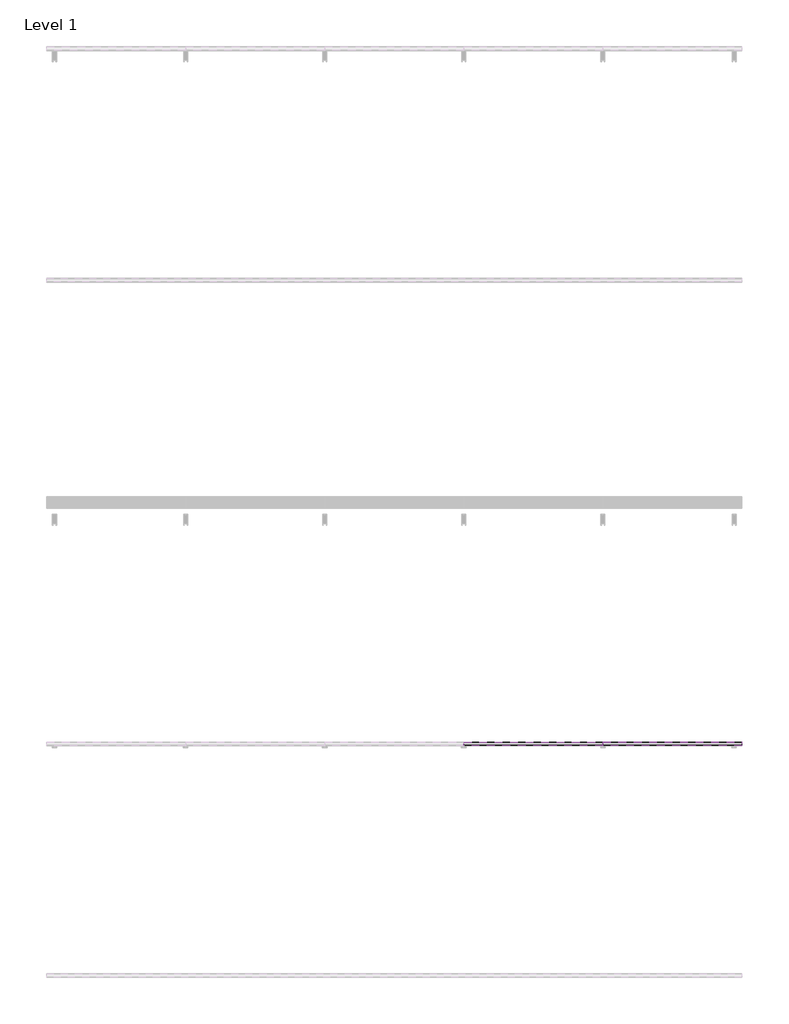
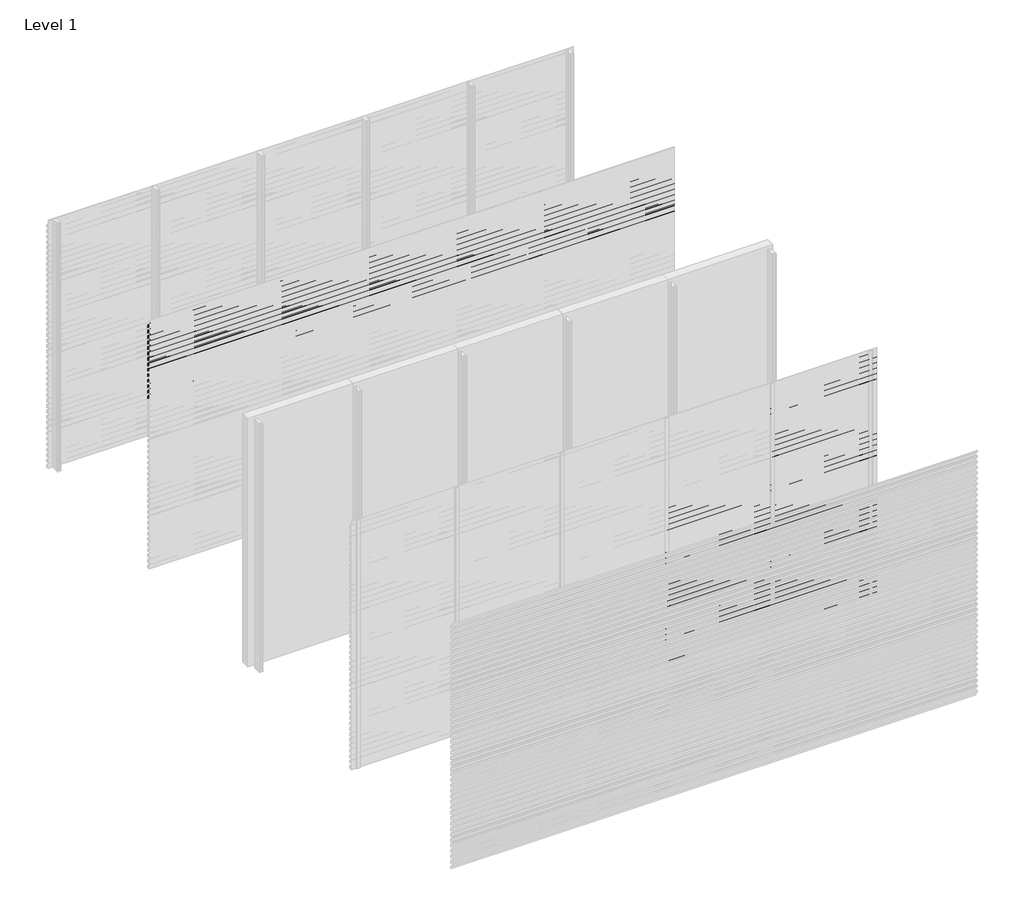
# One storey, part 21 of 33: 88 proxies.
"""IFC4 building model written with IfcOpenShell, lengths in millimetres."""

import ifcopenshell
import ifcopenshell.guid

model = None  # the IFC model being written
_history = None  # IfcOwnerHistory: only IFC2X3 demands one
_inside = {}  # id of a spatial element -> (the spatial element, [elements in it])
_under = {}  # id of a project, library or spatial element -> (it, [spatial elements below it])
_declared = {}  # id of a project -> (the project, [libraries it declares])
_typed = {}  # id of a type object -> (the type object, [elements of that type])
_made_of = {}  # id of a material, layer set ... -> (it, [elements and type objects made of it])


def new_model(schema):
    """Start an empty IFC model of exactly this schema.

    Asked for "IFC4X3", IfcOpenShell would pick the latest addendum, in which some entities
    have other attributes; the version numbers below select the first issue.
    IFC2X3 requires an IfcOwnerHistory on every rooted entity: one is made here for all.
    """
    global model, _history
    if schema == "IFC4X3":
        model = ifcopenshell.file(schema_version=(4, 3, 0, 0))
    else:
        model = ifcopenshell.file(schema=schema)
    _inside.clear()
    _under.clear()
    _declared.clear()
    _typed.clear()
    _made_of.clear()
    _history = None
    if model.schema == "IFC2X3":
        org = make("IfcOrganization", Name="unknown")
        user = make(
            "IfcPersonAndOrganization",
            ThePerson=make("IfcPerson", FamilyName="unknown"),
            TheOrganization=org,
        )
        app = make(
            "IfcApplication",
            ApplicationDeveloper=org,
            Version="unknown",
            ApplicationFullName="unknown",
            ApplicationIdentifier="unknown",
        )
        _history = make(
            "IfcOwnerHistory",
            OwningUser=user,
            OwningApplication=app,
            ChangeAction="ADDED",
            CreationDate=0,
        )
    return model


def make(cls, **values):
    """One entity of the class cls with the attributes given. An attribute that is None is left unset."""
    return model.create_entity(
        cls, **{name: value for name, value in values.items() if value is not None}
    )


def rooted(cls, **values):
    """An entity with a GlobalId (a new one), such as an element, a storey or a relation."""
    return make(cls, GlobalId=ifcopenshell.guid.new(), OwnerHistory=_history, **values)


def si_unit(unit_type, name, prefix=None):
    """IfcSIUnit, for example si_unit("LENGTHUNIT", "METRE", prefix="MILLI")."""
    return make("IfcSIUnit", UnitType=unit_type, Prefix=prefix, Name=name)


def assignment(units):
    """IfcUnitAssignment: the units of a project."""
    return None if units is None else make("IfcUnitAssignment", Units=units)


def point(xyz):
    """IfcCartesianPoint."""
    return None if xyz is None else make("IfcCartesianPoint", Coordinates=xyz)


def direction(xyz):
    """IfcDirection."""
    return None if xyz is None else make("IfcDirection", DirectionRatios=xyz)


def frame(location, z_axis=None, x_axis=None):
    """IfcAxis2Placement3D, a coordinate frame: its origin and axes. An axis left out is left unset."""
    return make(
        "IfcAxis2Placement3D",
        Location=point(location),
        Axis=direction(z_axis),
        RefDirection=direction(x_axis),
    )


def origin():
    """The frame at (0, 0, 0) with its axes left unset."""
    return frame((0.0, 0.0, 0.0))


def place(relative_to, where):
    """IfcLocalPlacement: puts the frame where relative to a parent placement (None: the world)."""
    return make(
        "IfcLocalPlacement", PlacementRelTo=relative_to, RelativePlacement=where
    )


def context(
    kind, dimensions, precision=None, world=None, true_north=None, identifier=None
):
    """IfcGeometricRepresentationContext, for example the 3D "Model" context."""
    return make(
        "IfcGeometricRepresentationContext",
        ContextIdentifier=identifier,
        ContextType=kind,
        CoordinateSpaceDimension=dimensions,
        Precision=precision,
        WorldCoordinateSystem=world,
        TrueNorth=true_north,
    )


def project(units=None, contexts=None):
    """IfcProject with its units and contexts."""
    return rooted(
        "IfcProject",
        Name="project",
        RepresentationContexts=contexts,
        UnitsInContext=assignment(units),
    )


def spatial(cls, under=None, at=None, **own):
    """A site, building, storey or space (cls), placed at a placement, below another one or the project."""
    s = rooted(cls, ObjectPlacement=at, **own)
    if under is not None:
        _under.setdefault(under.id(), (under, []))[1].append(s)
    return s


def polyline(points):
    """IfcPolyline through the points."""
    return make("IfcPolyline", Points=[point(p) for p in points])


def outline(outer, holes=None, kind="AREA"):
    """IfcArbitraryClosedProfileDef: a profile drawn as a closed curve; with holes, ...WithVoids."""
    if holes is None:
        return make("IfcArbitraryClosedProfileDef", ProfileType=kind, OuterCurve=outer)
    return make(
        "IfcArbitraryProfileDefWithVoids",
        ProfileType=kind,
        OuterCurve=outer,
        InnerCurves=holes,
    )


def extrude(swept, where, along, depth):
    """IfcExtrudedAreaSolid: the profile swept, set in the frame where, extruded along a direction by depth."""
    return make(
        "IfcExtrudedAreaSolid",
        SweptArea=swept,
        Position=where,
        ExtrudedDirection=direction(along),
        Depth=depth,
    )


def shape(context_of_items, identifier, shape_type, items):
    """IfcShapeRepresentation: the items that make up one representation, for example the "Body"."""
    return make(
        "IfcShapeRepresentation",
        ContextOfItems=context_of_items,
        RepresentationIdentifier=identifier,
        RepresentationType=shape_type,
        Items=items,
    )


def made_of(thing, what):
    """Note that an element or type object is made of a material, layer set ...; save() writes the relation."""
    if what is not None:
        _made_of.setdefault(what.id(), (what, []))[1].append(thing)
    return thing


def element(
    cls,
    number,
    at=None,
    inside=None,
    cuts=None,
    type_object=None,
    material=None,
    context=None,
    identifier="Body",
    shape_type=None,
    held_by="IfcProductDefinitionShape",
    body=None,
    shapes=None,
    **own,
):
    """One element of the class cls, such as IfcWall. Its Tag is "e" and its number.

    at: its placement. inside: the storey or other place that contains it. cuts: it is an
    opening in that element (IfcRelVoidsElement). A single representation is given by context,
    identifier, shape_type and body (its items); several are given by shapes. held_by: the class
    of the entity that holds the representations. save() writes the other relations.
    """
    e = rooted(cls, Tag="e%d" % number, ObjectPlacement=at, **own)
    if body is not None:
        shapes = [shape(context, identifier, shape_type, body)]
    if shapes is not None:
        e.Representation = make(held_by, Representations=shapes)
    if inside is not None:
        _inside.setdefault(inside.id(), (inside, []))[1].append(e)
    if cuts is not None:
        rooted(
            "IfcRelVoidsElement", RelatingBuildingElement=cuts, RelatedOpeningElement=e
        )
    if type_object is not None:
        _typed.setdefault(type_object.id(), (type_object, []))[1].append(e)
    return made_of(e, material)


def aggregate(whole, parts):
    """IfcRelAggregates: a whole, such as a stair, and the parts it consists of."""
    return rooted("IfcRelAggregates", RelatingObject=whole, RelatedObjects=parts)


def save(model, path):
    """Write the relations noted so far, then the file.

    IfcRelAggregates (storeys below a building ...), IfcRelContainedInSpatialStructure (elements
    in a storey), IfcRelDefinesByType, IfcRelAssociatesMaterial and IfcRelDeclares: one each for
    every whole, place, type object, material and project.
    """
    for whole, parts in _under.values():
        aggregate(whole, parts)
    for where, things in _inside.values():
        rooted(
            "IfcRelContainedInSpatialStructure",
            RelatedElements=things,
            RelatingStructure=where,
        )
    for kind, things in _typed.values():
        rooted("IfcRelDefinesByType", RelatedObjects=things, RelatingType=kind)
    for what, things in _made_of.values():
        rooted("IfcRelAssociatesMaterial", RelatedObjects=things, RelatingMaterial=what)
    for by, libraries in _declared.values():
        rooted("IfcRelDeclares", RelatingContext=by, RelatedDefinitions=libraries)
    model.write(path)


model = new_model("IFC4")

# Units and contexts
model_context = context("Model", 3, world=origin())
ifc_project = project(units=[si_unit("LENGTHUNIT", "METRE", prefix="MILLI")], contexts=[model_context])

# Site, building, storey
site = spatial("IfcSite", under=ifc_project)
building = spatial("IfcBuilding", under=site)
storey = spatial("IfcBuildingStorey", under=building, Name="Level 1", Elevation=0.0)

# Proxies
placement = place(None, origin())
element("IfcBuildingElementProxy", 1, Name="Wall Sweeps", at=placement, inside=storey, context=model_context, shape_type="SweptSolid", body=[
    extrude(outline(polyline([(-19967.0, 2930.0), (-19967.0, 2897.0), (-19968.25, 2897.7216933), (-19968.25, 2929.2872415), (-19998.0, 2950.0588647), (-19998.0, 2970.0), (-19996.75, 2970.0), (-19996.75, 2950.7716232), (-19967.0, 2930.0)])), frame((0.0, 0.0, 0.0), z_axis=(1.0, 0.0, 0.0), x_axis=(0.0, 1.0, 0.0)), (0.0, 0.0, 1.0), 6000.0),
])
element("IfcBuildingElementProxy", 2, Name="Wall Sweeps", at=placement, inside=storey, context=model_context, shape_type="SweptSolid", body=[
    extrude(outline(polyline([(-19967.0, 2864.0), (-19967.0, 2831.0), (-19968.25, 2831.7216933), (-19968.25, 2863.2872415), (-19998.0, 2884.0588647), (-19998.0, 2904.0), (-19996.75, 2904.0), (-19996.75, 2884.7716232), (-19967.0, 2864.0)])), frame((0.0, 0.0, 0.0), z_axis=(1.0, 0.0, 0.0), x_axis=(0.0, 1.0, 0.0)), (0.0, 0.0, 1.0), 6000.0),
])
element("IfcBuildingElementProxy", 3, Name="Wall Sweeps", at=placement, inside=storey, context=model_context, shape_type="SweptSolid", body=[
    extrude(outline(polyline([(-19967.0, 2798.0), (-19967.0, 2765.0), (-19968.25, 2765.7216933), (-19968.25, 2797.2872415), (-19998.0, 2818.0588647), (-19998.0, 2838.0), (-19996.75, 2838.0), (-19996.75, 2818.7716232), (-19967.0, 2798.0)])), frame((0.0, 0.0, 0.0), z_axis=(1.0, 0.0, 0.0), x_axis=(0.0, 1.0, 0.0)), (0.0, 0.0, 1.0), 6000.0),
])
element("IfcBuildingElementProxy", 4, Name="Wall Sweeps", at=placement, inside=storey, context=model_context, shape_type="SweptSolid", body=[
    extrude(outline(polyline([(-19967.0, 2732.0), (-19967.0, 2699.0), (-19968.25, 2699.7216933), (-19968.25, 2731.2872415), (-19998.0, 2752.0588647), (-19998.0, 2772.0), (-19996.75, 2772.0), (-19996.75, 2752.7716232), (-19967.0, 2732.0)])), frame((0.0, 0.0, 0.0), z_axis=(1.0, 0.0, 0.0), x_axis=(0.0, 1.0, 0.0)), (0.0, 0.0, 1.0), 6000.0),
])
element("IfcBuildingElementProxy", 5, Name="Wall Sweeps", at=placement, inside=storey, context=model_context, shape_type="SweptSolid", body=[
    extrude(outline(polyline([(-19967.0, 2666.0), (-19967.0, 2633.0), (-19968.25, 2633.7216933), (-19968.25, 2665.2872415), (-19998.0, 2686.0588647), (-19998.0, 2706.0), (-19996.75, 2706.0), (-19996.75, 2686.7716232), (-19967.0, 2666.0)])), frame((0.0, 0.0, 0.0), z_axis=(1.0, 0.0, 0.0), x_axis=(0.0, 1.0, 0.0)), (0.0, 0.0, 1.0), 6000.0),
])
element("IfcBuildingElementProxy", 6, Name="Wall Sweeps", at=placement, inside=storey, context=model_context, shape_type="SweptSolid", body=[
    extrude(outline(polyline([(-19967.0, 2600.0), (-19967.0, 2567.0), (-19968.25, 2567.7216933), (-19968.25, 2599.2872415), (-19998.0, 2620.0588647), (-19998.0, 2640.0), (-19996.75, 2640.0), (-19996.75, 2620.7716232), (-19967.0, 2600.0)])), frame((0.0, 0.0, 0.0), z_axis=(1.0, 0.0, 0.0), x_axis=(0.0, 1.0, 0.0)), (0.0, 0.0, 1.0), 6000.0),
])
element("IfcBuildingElementProxy", 7, Name="Wall Sweeps", at=placement, inside=storey, context=model_context, shape_type="SweptSolid", body=[
    extrude(outline(polyline([(-19967.0, 2534.0), (-19967.0, 2501.0), (-19968.25, 2501.7216933), (-19968.25, 2533.2872415), (-19998.0, 2554.0588647), (-19998.0, 2574.0), (-19996.75, 2574.0), (-19996.75, 2554.7716232), (-19967.0, 2534.0)])), frame((0.0, 0.0, 0.0), z_axis=(1.0, 0.0, 0.0), x_axis=(0.0, 1.0, 0.0)), (0.0, 0.0, 1.0), 6000.0),
])
element("IfcBuildingElementProxy", 8, Name="Wall Sweeps", at=placement, inside=storey, context=model_context, shape_type="SweptSolid", body=[
    extrude(outline(polyline([(-19967.0, 2468.0), (-19967.0, 2435.0), (-19968.25, 2435.7216933), (-19968.25, 2467.2872415), (-19998.0, 2488.0588647), (-19998.0, 2508.0), (-19996.75, 2508.0), (-19996.75, 2488.7716232), (-19967.0, 2468.0)])), frame((0.0, 0.0, 0.0), z_axis=(1.0, 0.0, 0.0), x_axis=(0.0, 1.0, 0.0)), (0.0, 0.0, 1.0), 6000.0),
])
element("IfcBuildingElementProxy", 9, Name="Wall Sweeps", at=placement, inside=storey, context=model_context, shape_type="SweptSolid", body=[
    extrude(outline(polyline([(-19967.0, 2402.0), (-19967.0, 2369.0), (-19968.25, 2369.7216933), (-19968.25, 2401.2872415), (-19998.0, 2422.0588647), (-19998.0, 2442.0), (-19996.75, 2442.0), (-19996.75, 2422.7716232), (-19967.0, 2402.0)])), frame((0.0, 0.0, 0.0), z_axis=(1.0, 0.0, 0.0), x_axis=(0.0, 1.0, 0.0)), (0.0, 0.0, 1.0), 6000.0),
])
element("IfcBuildingElementProxy", 10, Name="Wall Sweeps", at=placement, inside=storey, context=model_context, shape_type="SweptSolid", body=[
    extrude(outline(polyline([(-19967.0, 2336.0), (-19967.0, 2303.0), (-19968.25, 2303.7216933), (-19968.25, 2335.2872415), (-19998.0, 2356.0588647), (-19998.0, 2376.0), (-19996.75, 2376.0), (-19996.75, 2356.7716232), (-19967.0, 2336.0)])), frame((0.0, 0.0, 0.0), z_axis=(1.0, 0.0, 0.0), x_axis=(0.0, 1.0, 0.0)), (0.0, 0.0, 1.0), 6000.0),
])
element("IfcBuildingElementProxy", 11, Name="Wall Sweeps", at=placement, inside=storey, context=model_context, shape_type="SweptSolid", body=[
    extrude(outline(polyline([(-19967.0, 2270.0), (-19967.0, 2237.0), (-19968.25, 2237.7216933), (-19968.25, 2269.2872415), (-19998.0, 2290.0588647), (-19998.0, 2310.0), (-19996.75, 2310.0), (-19996.75, 2290.7716232), (-19967.0, 2270.0)])), frame((0.0, 0.0, 0.0), z_axis=(1.0, 0.0, 0.0), x_axis=(0.0, 1.0, 0.0)), (0.0, 0.0, 1.0), 6000.0),
])
element("IfcBuildingElementProxy", 12, Name="Wall Sweeps", at=placement, inside=storey, context=model_context, shape_type="SweptSolid", body=[
    extrude(outline(polyline([(-19967.0, 2204.0), (-19967.0, 2171.0), (-19968.25, 2171.7216933), (-19968.25, 2203.2872415), (-19998.0, 2224.0588647), (-19998.0, 2244.0), (-19996.75, 2244.0), (-19996.75, 2224.7716232), (-19967.0, 2204.0)])), frame((0.0, 0.0, 0.0), z_axis=(1.0, 0.0, 0.0), x_axis=(0.0, 1.0, 0.0)), (0.0, 0.0, 1.0), 6000.0),
])
element("IfcBuildingElementProxy", 13, Name="Wall Sweeps", at=placement, inside=storey, context=model_context, shape_type="SweptSolid", body=[
    extrude(outline(polyline([(-19967.0, 2138.0), (-19967.0, 2105.0), (-19968.25, 2105.7216933), (-19968.25, 2137.2872415), (-19998.0, 2158.0588647), (-19998.0, 2178.0), (-19996.75, 2178.0), (-19996.75, 2158.7716232), (-19967.0, 2138.0)])), frame((0.0, 0.0, 0.0), z_axis=(1.0, 0.0, 0.0), x_axis=(0.0, 1.0, 0.0)), (0.0, 0.0, 1.0), 6000.0),
])
element("IfcBuildingElementProxy", 14, Name="Wall Sweeps", at=placement, inside=storey, context=model_context, shape_type="SweptSolid", body=[
    extrude(outline(polyline([(-19967.0, 2072.0), (-19967.0, 2039.0), (-19968.25, 2039.7216933), (-19968.25, 2071.2872415), (-19998.0, 2092.0588647), (-19998.0, 2112.0), (-19996.75, 2112.0), (-19996.75, 2092.7716232), (-19967.0, 2072.0)])), frame((0.0, 0.0, 0.0), z_axis=(1.0, 0.0, 0.0), x_axis=(0.0, 1.0, 0.0)), (0.0, 0.0, 1.0), 6000.0),
])
element("IfcBuildingElementProxy", 15, Name="Wall Sweeps", at=placement, inside=storey, context=model_context, shape_type="SweptSolid", body=[
    extrude(outline(polyline([(-23967.0, 1874.0), (-23967.0, 1841.0), (-23968.25, 1841.7216933), (-23968.25, 1873.2872415), (-23998.0, 1894.0588647), (-23998.0, 1914.0), (-23996.75, 1914.0), (-23996.75, 1894.7716232), (-23967.0, 1874.0)])), frame((3600.0, 0.0, 0.0), z_axis=(1.0, 0.0, 0.0), x_axis=(0.0, 1.0, 0.0)), (0.0, 0.0, 1.0), 1200.0),
])
element("IfcBuildingElementProxy", 16, Name="Wall Sweeps", at=placement, inside=storey, context=model_context, shape_type="SweptSolid", body=[
    extrude(outline(polyline([(-23967.0, 1808.0), (-23967.0, 1775.0), (-23968.25, 1775.7216933), (-23968.25, 1807.2872415), (-23998.0, 1828.0588647), (-23998.0, 1848.0), (-23996.75, 1848.0), (-23996.75, 1828.7716232), (-23967.0, 1808.0)])), frame((3600.0, 0.0, 0.0), z_axis=(1.0, 0.0, 0.0), x_axis=(0.0, 1.0, 0.0)), (0.0, 0.0, 1.0), 1200.0),
])
element("IfcBuildingElementProxy", 17, Name="Wall Sweeps", at=placement, inside=storey, context=model_context, shape_type="SweptSolid", body=[
    extrude(outline(polyline([(-23967.0, 1742.0), (-23967.0, 1709.0), (-23968.25, 1709.7216933), (-23968.25, 1741.2872415), (-23998.0, 1762.0588647), (-23998.0, 1782.0), (-23996.75, 1782.0), (-23996.75, 1762.7716232), (-23967.0, 1742.0)])), frame((3600.0, 0.0, 0.0), z_axis=(1.0, 0.0, 0.0), x_axis=(0.0, 1.0, 0.0)), (0.0, 0.0, 1.0), 1200.0),
])
element("IfcBuildingElementProxy", 18, Name="Wall Sweeps", at=placement, inside=storey, context=model_context, shape_type="SweptSolid", body=[
    extrude(outline(polyline([(-23967.0, 1676.0), (-23967.0, 1643.0), (-23968.25, 1643.7216933), (-23968.25, 1675.2872415), (-23998.0, 1696.0588647), (-23998.0, 1716.0), (-23996.75, 1716.0), (-23996.75, 1696.7716232), (-23967.0, 1676.0)])), frame((3600.0, 0.0, 0.0), z_axis=(1.0, 0.0, 0.0), x_axis=(0.0, 1.0, 0.0)), (0.0, 0.0, 1.0), 1200.0),
])
element("IfcBuildingElementProxy", 19, Name="Wall Sweeps", at=placement, inside=storey, context=model_context, shape_type="SweptSolid", body=[
    extrude(outline(polyline([(-23967.0, 1610.0), (-23967.0, 1577.0), (-23968.25, 1577.7216933), (-23968.25, 1609.2872415), (-23998.0, 1630.0588647), (-23998.0, 1650.0), (-23996.75, 1650.0), (-23996.75, 1630.7716232), (-23967.0, 1610.0)])), frame((3600.0, 0.0, 0.0), z_axis=(1.0, 0.0, 0.0), x_axis=(0.0, 1.0, 0.0)), (0.0, 0.0, 1.0), 1200.0),
])
element("IfcBuildingElementProxy", 20, Name="Wall Sweeps", at=placement, inside=storey, context=model_context, shape_type="SweptSolid", body=[
    extrude(outline(polyline([(-23967.0, 1544.0), (-23967.0, 1511.0), (-23968.25, 1511.7216933), (-23968.25, 1543.2872415), (-23998.0, 1564.0588647), (-23998.0, 1584.0), (-23996.75, 1584.0), (-23996.75, 1564.7716232), (-23967.0, 1544.0)])), frame((3600.0, 0.0, 0.0), z_axis=(1.0, 0.0, 0.0), x_axis=(0.0, 1.0, 0.0)), (0.0, 0.0, 1.0), 1200.0),
])
element("IfcBuildingElementProxy", 21, Name="Wall Sweeps", at=placement, inside=storey, context=model_context, shape_type="SweptSolid", body=[
    extrude(outline(polyline([(-23967.0, 1478.0), (-23967.0, 1445.0), (-23968.25, 1445.7216933), (-23968.25, 1477.2872415), (-23998.0, 1498.0588647), (-23998.0, 1518.0), (-23996.75, 1518.0), (-23996.75, 1498.7716232), (-23967.0, 1478.0)])), frame((3600.0, 0.0, 0.0), z_axis=(1.0, 0.0, 0.0), x_axis=(0.0, 1.0, 0.0)), (0.0, 0.0, 1.0), 1200.0),
])
element("IfcBuildingElementProxy", 22, Name="Wall Sweeps", at=placement, inside=storey, context=model_context, shape_type="SweptSolid", body=[
    extrude(outline(polyline([(-23967.0, 1412.0), (-23967.0, 1379.0), (-23968.25, 1379.7216933), (-23968.25, 1411.2872415), (-23998.0, 1432.0588647), (-23998.0, 1452.0), (-23996.75, 1452.0), (-23996.75, 1432.7716232), (-23967.0, 1412.0)])), frame((3600.0, 0.0, 0.0), z_axis=(1.0, 0.0, 0.0), x_axis=(0.0, 1.0, 0.0)), (0.0, 0.0, 1.0), 1200.0),
])
element("IfcBuildingElementProxy", 23, Name="Wall Sweeps", at=placement, inside=storey, context=model_context, shape_type="SweptSolid", body=[
    extrude(outline(polyline([(-23967.0, 1346.0), (-23967.0, 1313.0), (-23968.25, 1313.7216933), (-23968.25, 1345.2872415), (-23998.0, 1366.0588647), (-23998.0, 1386.0), (-23996.75, 1386.0), (-23996.75, 1366.7716232), (-23967.0, 1346.0)])), frame((3600.0, 0.0, 0.0), z_axis=(1.0, 0.0, 0.0), x_axis=(0.0, 1.0, 0.0)), (0.0, 0.0, 1.0), 1200.0),
])
element("IfcBuildingElementProxy", 24, Name="Wall Sweeps", at=placement, inside=storey, context=model_context, shape_type="SweptSolid", body=[
    extrude(outline(polyline([(-23967.0, 1280.0), (-23967.0, 1247.0), (-23968.25, 1247.7216933), (-23968.25, 1279.2872415), (-23998.0, 1300.0588647), (-23998.0, 1320.0), (-23996.75, 1320.0), (-23996.75, 1300.7716232), (-23967.0, 1280.0)])), frame((3600.0, 0.0, 0.0), z_axis=(1.0, 0.0, 0.0), x_axis=(0.0, 1.0, 0.0)), (0.0, 0.0, 1.0), 1200.0),
])
element("IfcBuildingElementProxy", 25, Name="Wall Sweeps", at=placement, inside=storey, context=model_context, shape_type="SweptSolid", body=[
    extrude(outline(polyline([(-23967.0, 1214.0), (-23967.0, 1181.0), (-23968.25, 1181.7216933), (-23968.25, 1213.2872415), (-23998.0, 1234.0588647), (-23998.0, 1254.0), (-23996.75, 1254.0), (-23996.75, 1234.7716232), (-23967.0, 1214.0)])), frame((3600.0, 0.0, 0.0), z_axis=(1.0, 0.0, 0.0), x_axis=(0.0, 1.0, 0.0)), (0.0, 0.0, 1.0), 1200.0),
])
element("IfcBuildingElementProxy", 26, Name="Wall Sweeps", at=placement, inside=storey, context=model_context, shape_type="SweptSolid", body=[
    extrude(outline(polyline([(-23967.0, 1148.0), (-23967.0, 1115.0), (-23968.25, 1115.7216933), (-23968.25, 1147.2872415), (-23998.0, 1168.0588647), (-23998.0, 1188.0), (-23996.75, 1188.0), (-23996.75, 1168.7716232), (-23967.0, 1148.0)])), frame((3600.0, 0.0, 0.0), z_axis=(1.0, 0.0, 0.0), x_axis=(0.0, 1.0, 0.0)), (0.0, 0.0, 1.0), 1200.0),
])
element("IfcBuildingElementProxy", 27, Name="Wall Sweeps", at=placement, inside=storey, context=model_context, shape_type="SweptSolid", body=[
    extrude(outline(polyline([(-23967.0, 1082.0), (-23967.0, 1049.0), (-23968.25, 1049.7216933), (-23968.25, 1081.2872415), (-23998.0, 1102.0588647), (-23998.0, 1122.0), (-23996.75, 1122.0), (-23996.75, 1102.7716232), (-23967.0, 1082.0)])), frame((3600.0, 0.0, 0.0), z_axis=(1.0, 0.0, 0.0), x_axis=(0.0, 1.0, 0.0)), (0.0, 0.0, 1.0), 1200.0),
])
element("IfcBuildingElementProxy", 28, Name="Wall Sweeps", at=placement, inside=storey, context=model_context, shape_type="SweptSolid", body=[
    extrude(outline(polyline([(-23967.0, 1016.0), (-23967.0, 983.0), (-23968.25, 983.7216933), (-23968.25, 1015.2872415), (-23998.0, 1036.0588647), (-23998.0, 1056.0), (-23996.75, 1056.0), (-23996.75, 1036.7716232), (-23967.0, 1016.0)])), frame((3600.0, 0.0, 0.0), z_axis=(1.0, 0.0, 0.0), x_axis=(0.0, 1.0, 0.0)), (0.0, 0.0, 1.0), 1200.0),
])
element("IfcBuildingElementProxy", 29, Name="Wall Sweeps", at=placement, inside=storey, context=model_context, shape_type="SweptSolid", body=[
    extrude(outline(polyline([(-23967.0, 950.0), (-23967.0, 917.0), (-23968.25, 917.7216933), (-23968.25, 949.2872415), (-23998.0, 970.0588647), (-23998.0, 990.0), (-23996.75, 990.0), (-23996.75, 970.7716232), (-23967.0, 950.0)])), frame((3600.0, 0.0, 0.0), z_axis=(1.0, 0.0, 0.0), x_axis=(0.0, 1.0, 0.0)), (0.0, 0.0, 1.0), 1200.0),
])
element("IfcBuildingElementProxy", 30, Name="Wall Sweeps", at=placement, inside=storey, context=model_context, shape_type="SweptSolid", body=[
    extrude(outline(polyline([(-23967.0, 884.0), (-23967.0, 851.0), (-23968.25, 851.7216933), (-23968.25, 883.2872415), (-23998.0, 904.0588647), (-23998.0, 924.0), (-23996.75, 924.0), (-23996.75, 904.7716232), (-23967.0, 884.0)])), frame((3600.0, 0.0, 0.0), z_axis=(1.0, 0.0, 0.0), x_axis=(0.0, 1.0, 0.0)), (0.0, 0.0, 1.0), 1200.0),
])
element("IfcBuildingElementProxy", 31, Name="Wall Sweeps", at=placement, inside=storey, context=model_context, shape_type="SweptSolid", body=[
    extrude(outline(polyline([(-23967.0, 818.0), (-23967.0, 785.0), (-23968.25, 785.7216933), (-23968.25, 817.2872415), (-23998.0, 838.0588647), (-23998.0, 858.0), (-23996.75, 858.0), (-23996.75, 838.7716232), (-23967.0, 818.0)])), frame((3600.0, 0.0, 0.0), z_axis=(1.0, 0.0, 0.0), x_axis=(0.0, 1.0, 0.0)), (0.0, 0.0, 1.0), 1200.0),
])
element("IfcBuildingElementProxy", 32, Name="Wall Sweeps", at=placement, inside=storey, context=model_context, shape_type="SweptSolid", body=[
    extrude(outline(polyline([(-23967.0, 752.0), (-23967.0, 719.0), (-23968.25, 719.7216933), (-23968.25, 751.2872415), (-23998.0, 772.0588647), (-23998.0, 792.0), (-23996.75, 792.0), (-23996.75, 772.7716232), (-23967.0, 752.0)])), frame((3600.0, 0.0, 0.0), z_axis=(1.0, 0.0, 0.0), x_axis=(0.0, 1.0, 0.0)), (0.0, 0.0, 1.0), 1200.0),
])
element("IfcBuildingElementProxy", 33, Name="Wall Sweeps", at=placement, inside=storey, context=model_context, shape_type="SweptSolid", body=[
    extrude(outline(polyline([(-23967.0, 686.0), (-23967.0, 653.0), (-23968.25, 653.7216933), (-23968.25, 685.2872415), (-23998.0, 706.0588647), (-23998.0, 726.0), (-23996.75, 726.0), (-23996.75, 706.7716232), (-23967.0, 686.0)])), frame((3600.0, 0.0, 0.0), z_axis=(1.0, 0.0, 0.0), x_axis=(0.0, 1.0, 0.0)), (0.0, 0.0, 1.0), 1200.0),
])
element("IfcBuildingElementProxy", 34, Name="Wall Sweeps", at=placement, inside=storey, context=model_context, shape_type="SweptSolid", body=[
    extrude(outline(polyline([(-23967.0, 620.0), (-23967.0, 587.0), (-23968.25, 587.7216933), (-23968.25, 619.2872415), (-23998.0, 640.0588647), (-23998.0, 660.0), (-23996.75, 660.0), (-23996.75, 640.7716232), (-23967.0, 620.0)])), frame((3600.0, 0.0, 0.0), z_axis=(1.0, 0.0, 0.0), x_axis=(0.0, 1.0, 0.0)), (0.0, 0.0, 1.0), 1200.0),
])
element("IfcBuildingElementProxy", 35, Name="Wall Sweeps", at=placement, inside=storey, context=model_context, shape_type="SweptSolid", body=[
    extrude(outline(polyline([(-23967.0, 554.0), (-23967.0, 521.0), (-23968.25, 521.7216933), (-23968.25, 553.2872415), (-23998.0, 574.0588647), (-23998.0, 594.0), (-23996.75, 594.0), (-23996.75, 574.7716232), (-23967.0, 554.0)])), frame((3600.0, 0.0, 0.0), z_axis=(1.0, 0.0, 0.0), x_axis=(0.0, 1.0, 0.0)), (0.0, 0.0, 1.0), 1200.0),
])
element("IfcBuildingElementProxy", 36, Name="Wall Sweeps", at=placement, inside=storey, context=model_context, shape_type="SweptSolid", body=[
    extrude(outline(polyline([(-23967.0, 488.0), (-23967.0, 455.0), (-23968.25, 455.7216933), (-23968.25, 487.2872415), (-23998.0, 508.0588647), (-23998.0, 528.0), (-23996.75, 528.0), (-23996.75, 508.7716232), (-23967.0, 488.0)])), frame((3600.0, 0.0, 0.0), z_axis=(1.0, 0.0, 0.0), x_axis=(0.0, 1.0, 0.0)), (0.0, 0.0, 1.0), 1200.0),
])
element("IfcBuildingElementProxy", 37, Name="Wall Sweeps", at=placement, inside=storey, context=model_context, shape_type="SweptSolid", body=[
    extrude(outline(polyline([(-23967.0, 422.0), (-23967.0, 389.0), (-23968.25, 389.7216933), (-23968.25, 421.2872415), (-23998.0, 442.0588647), (-23998.0, 462.0), (-23996.75, 462.0), (-23996.75, 442.7716232), (-23967.0, 422.0)])), frame((3600.0, 0.0, 0.0), z_axis=(1.0, 0.0, 0.0), x_axis=(0.0, 1.0, 0.0)), (0.0, 0.0, 1.0), 1200.0),
])
element("IfcBuildingElementProxy", 38, Name="Wall Sweeps", at=placement, inside=storey, context=model_context, shape_type="SweptSolid", body=[
    extrude(outline(polyline([(-23967.0, 356.0), (-23967.0, 323.0), (-23968.25, 323.7216933), (-23968.25, 355.2872415), (-23998.0, 376.0588647), (-23998.0, 396.0), (-23996.75, 396.0), (-23996.75, 376.7716232), (-23967.0, 356.0)])), frame((3600.0, 0.0, 0.0), z_axis=(1.0, 0.0, 0.0), x_axis=(0.0, 1.0, 0.0)), (0.0, 0.0, 1.0), 1200.0),
])
element("IfcBuildingElementProxy", 39, Name="Wall Sweeps", at=placement, inside=storey, context=model_context, shape_type="SweptSolid", body=[
    extrude(outline(polyline([(-23967.0, 290.0), (-23967.0, 257.0), (-23968.25, 257.7216933), (-23968.25, 289.2872415), (-23998.0, 310.0588647), (-23998.0, 330.0), (-23996.75, 330.0), (-23996.75, 310.7716232), (-23967.0, 290.0)])), frame((3600.0, 0.0, 0.0), z_axis=(1.0, 0.0, 0.0), x_axis=(0.0, 1.0, 0.0)), (0.0, 0.0, 1.0), 1200.0),
])
element("IfcBuildingElementProxy", 40, Name="Wall Sweeps", at=placement, inside=storey, context=model_context, shape_type="SweptSolid", body=[
    extrude(outline(polyline([(-23967.0, 224.0), (-23967.0, 191.0), (-23968.25, 191.7216933), (-23968.25, 223.2872415), (-23998.0, 244.0588647), (-23998.0, 264.0), (-23996.75, 264.0), (-23996.75, 244.7716232), (-23967.0, 224.0)])), frame((3600.0, 0.0, 0.0), z_axis=(1.0, 0.0, 0.0), x_axis=(0.0, 1.0, 0.0)), (0.0, 0.0, 1.0), 1200.0),
])
element("IfcBuildingElementProxy", 41, Name="Wall Sweeps", at=placement, inside=storey, context=model_context, shape_type="SweptSolid", body=[
    extrude(outline(polyline([(-23967.0, 158.0), (-23967.0, 125.0), (-23968.25, 125.7216933), (-23968.25, 157.2872415), (-23998.0, 178.0588647), (-23998.0, 198.0), (-23996.75, 198.0), (-23996.75, 178.7716232), (-23967.0, 158.0)])), frame((3600.0, 0.0, 0.0), z_axis=(1.0, 0.0, 0.0), x_axis=(0.0, 1.0, 0.0)), (0.0, 0.0, 1.0), 1200.0),
])
element("IfcBuildingElementProxy", 42, Name="Wall Sweeps", at=placement, inside=storey, context=model_context, shape_type="SweptSolid", body=[
    extrude(outline(polyline([(-23967.0, 92.0), (-23967.0, 59.0), (-23968.25, 59.7216933), (-23968.25, 91.2872415), (-23998.0, 112.0588647), (-23998.0, 132.0), (-23996.75, 132.0), (-23996.75, 112.7716232), (-23967.0, 92.0)])), frame((3600.0, 0.0, 0.0), z_axis=(1.0, 0.0, 0.0), x_axis=(0.0, 1.0, 0.0)), (0.0, 0.0, 1.0), 1200.0),
])
element("IfcBuildingElementProxy", 43, Name="Wall Sweeps", at=placement, inside=storey, context=model_context, shape_type="SweptSolid", body=[
    extrude(outline(polyline([(-23967.0, 26.0), (-23967.0, -7.0), (-23968.25, -6.2783067), (-23968.25, 25.2872415), (-23998.0, 46.0588647), (-23998.0, 66.0), (-23996.75, 66.0), (-23996.75, 46.7716232), (-23967.0, 26.0)])), frame((3600.0, 0.0, 0.0), z_axis=(1.0, 0.0, 0.0), x_axis=(0.0, 1.0, 0.0)), (0.0, 0.0, 1.0), 1200.0),
])
element("IfcBuildingElementProxy", 44, Name="Wall Sweeps", at=placement, inside=storey, context=model_context, shape_type="SweptSolid", body=[
    extrude(outline(polyline([(-23967.0, 2930.0), (-23967.0, 2897.0), (-23968.25, 2897.7216933), (-23968.25, 2929.2872415), (-23998.0, 2950.0588647), (-23998.0, 2970.0), (-23996.75, 2970.0), (-23996.75, 2950.7716232), (-23967.0, 2930.0)])), frame((4800.0, 0.0, 0.0), z_axis=(1.0, 0.0, 0.0), x_axis=(0.0, 1.0, 0.0)), (0.0, 0.0, 1.0), 1200.0),
])
element("IfcBuildingElementProxy", 45, Name="Wall Sweeps", at=placement, inside=storey, context=model_context, shape_type="SweptSolid", body=[
    extrude(outline(polyline([(-23967.0, 2864.0), (-23967.0, 2831.0), (-23968.25, 2831.7216933), (-23968.25, 2863.2872415), (-23998.0, 2884.0588647), (-23998.0, 2904.0), (-23996.75, 2904.0), (-23996.75, 2884.7716232), (-23967.0, 2864.0)])), frame((4800.0, 0.0, 0.0), z_axis=(1.0, 0.0, 0.0), x_axis=(0.0, 1.0, 0.0)), (0.0, 0.0, 1.0), 1200.0),
])
element("IfcBuildingElementProxy", 46, Name="Wall Sweeps", at=placement, inside=storey, context=model_context, shape_type="SweptSolid", body=[
    extrude(outline(polyline([(-23967.0, 2798.0), (-23967.0, 2765.0), (-23968.25, 2765.7216933), (-23968.25, 2797.2872415), (-23998.0, 2818.0588647), (-23998.0, 2838.0), (-23996.75, 2838.0), (-23996.75, 2818.7716232), (-23967.0, 2798.0)])), frame((4800.0, 0.0, 0.0), z_axis=(1.0, 0.0, 0.0), x_axis=(0.0, 1.0, 0.0)), (0.0, 0.0, 1.0), 1200.0),
])
element("IfcBuildingElementProxy", 47, Name="Wall Sweeps", at=placement, inside=storey, context=model_context, shape_type="SweptSolid", body=[
    extrude(outline(polyline([(-23967.0, 2732.0), (-23967.0, 2699.0), (-23968.25, 2699.7216933), (-23968.25, 2731.2872415), (-23998.0, 2752.0588647), (-23998.0, 2772.0), (-23996.75, 2772.0), (-23996.75, 2752.7716232), (-23967.0, 2732.0)])), frame((4800.0, 0.0, 0.0), z_axis=(1.0, 0.0, 0.0), x_axis=(0.0, 1.0, 0.0)), (0.0, 0.0, 1.0), 1200.0),
])
element("IfcBuildingElementProxy", 48, Name="Wall Sweeps", at=placement, inside=storey, context=model_context, shape_type="SweptSolid", body=[
    extrude(outline(polyline([(-23967.0, 2666.0), (-23967.0, 2633.0), (-23968.25, 2633.7216933), (-23968.25, 2665.2872415), (-23998.0, 2686.0588647), (-23998.0, 2706.0), (-23996.75, 2706.0), (-23996.75, 2686.7716232), (-23967.0, 2666.0)])), frame((4800.0, 0.0, 0.0), z_axis=(1.0, 0.0, 0.0), x_axis=(0.0, 1.0, 0.0)), (0.0, 0.0, 1.0), 1200.0),
])
element("IfcBuildingElementProxy", 49, Name="Wall Sweeps", at=placement, inside=storey, context=model_context, shape_type="SweptSolid", body=[
    extrude(outline(polyline([(-23967.0, 2600.0), (-23967.0, 2567.0), (-23968.25, 2567.7216933), (-23968.25, 2599.2872415), (-23998.0, 2620.0588647), (-23998.0, 2640.0), (-23996.75, 2640.0), (-23996.75, 2620.7716232), (-23967.0, 2600.0)])), frame((4800.0, 0.0, 0.0), z_axis=(1.0, 0.0, 0.0), x_axis=(0.0, 1.0, 0.0)), (0.0, 0.0, 1.0), 1200.0),
])
element("IfcBuildingElementProxy", 50, Name="Wall Sweeps", at=placement, inside=storey, context=model_context, shape_type="SweptSolid", body=[
    extrude(outline(polyline([(-23967.0, 2534.0), (-23967.0, 2501.0), (-23968.25, 2501.7216933), (-23968.25, 2533.2872415), (-23998.0, 2554.0588647), (-23998.0, 2574.0), (-23996.75, 2574.0), (-23996.75, 2554.7716232), (-23967.0, 2534.0)])), frame((4800.0, 0.0, 0.0), z_axis=(1.0, 0.0, 0.0), x_axis=(0.0, 1.0, 0.0)), (0.0, 0.0, 1.0), 1200.0),
])
element("IfcBuildingElementProxy", 51, Name="Wall Sweeps", at=placement, inside=storey, context=model_context, shape_type="SweptSolid", body=[
    extrude(outline(polyline([(-23967.0, 2468.0), (-23967.0, 2435.0), (-23968.25, 2435.7216933), (-23968.25, 2467.2872415), (-23998.0, 2488.0588647), (-23998.0, 2508.0), (-23996.75, 2508.0), (-23996.75, 2488.7716232), (-23967.0, 2468.0)])), frame((4800.0, 0.0, 0.0), z_axis=(1.0, 0.0, 0.0), x_axis=(0.0, 1.0, 0.0)), (0.0, 0.0, 1.0), 1200.0),
])
element("IfcBuildingElementProxy", 52, Name="Wall Sweeps", at=placement, inside=storey, context=model_context, shape_type="SweptSolid", body=[
    extrude(outline(polyline([(-23967.0, 2402.0), (-23967.0, 2369.0), (-23968.25, 2369.7216933), (-23968.25, 2401.2872415), (-23998.0, 2422.0588647), (-23998.0, 2442.0), (-23996.75, 2442.0), (-23996.75, 2422.7716232), (-23967.0, 2402.0)])), frame((4800.0, 0.0, 0.0), z_axis=(1.0, 0.0, 0.0), x_axis=(0.0, 1.0, 0.0)), (0.0, 0.0, 1.0), 1200.0),
])
element("IfcBuildingElementProxy", 53, Name="Wall Sweeps", at=placement, inside=storey, context=model_context, shape_type="SweptSolid", body=[
    extrude(outline(polyline([(-23967.0, 2336.0), (-23967.0, 2303.0), (-23968.25, 2303.7216933), (-23968.25, 2335.2872415), (-23998.0, 2356.0588647), (-23998.0, 2376.0), (-23996.75, 2376.0), (-23996.75, 2356.7716232), (-23967.0, 2336.0)])), frame((4800.0, 0.0, 0.0), z_axis=(1.0, 0.0, 0.0), x_axis=(0.0, 1.0, 0.0)), (0.0, 0.0, 1.0), 1200.0),
])
element("IfcBuildingElementProxy", 54, Name="Wall Sweeps", at=placement, inside=storey, context=model_context, shape_type="SweptSolid", body=[
    extrude(outline(polyline([(-23967.0, 2270.0), (-23967.0, 2237.0), (-23968.25, 2237.7216933), (-23968.25, 2269.2872415), (-23998.0, 2290.0588647), (-23998.0, 2310.0), (-23996.75, 2310.0), (-23996.75, 2290.7716232), (-23967.0, 2270.0)])), frame((4800.0, 0.0, 0.0), z_axis=(1.0, 0.0, 0.0), x_axis=(0.0, 1.0, 0.0)), (0.0, 0.0, 1.0), 1200.0),
])
element("IfcBuildingElementProxy", 55, Name="Wall Sweeps", at=placement, inside=storey, context=model_context, shape_type="SweptSolid", body=[
    extrude(outline(polyline([(-23967.0, 2204.0), (-23967.0, 2171.0), (-23968.25, 2171.7216933), (-23968.25, 2203.2872415), (-23998.0, 2224.0588647), (-23998.0, 2244.0), (-23996.75, 2244.0), (-23996.75, 2224.7716232), (-23967.0, 2204.0)])), frame((4800.0, 0.0, 0.0), z_axis=(1.0, 0.0, 0.0), x_axis=(0.0, 1.0, 0.0)), (0.0, 0.0, 1.0), 1200.0),
])
element("IfcBuildingElementProxy", 56, Name="Wall Sweeps", at=placement, inside=storey, context=model_context, shape_type="SweptSolid", body=[
    extrude(outline(polyline([(-23967.0, 2138.0), (-23967.0, 2105.0), (-23968.25, 2105.7216933), (-23968.25, 2137.2872415), (-23998.0, 2158.0588647), (-23998.0, 2178.0), (-23996.75, 2178.0), (-23996.75, 2158.7716232), (-23967.0, 2138.0)])), frame((4800.0, 0.0, 0.0), z_axis=(1.0, 0.0, 0.0), x_axis=(0.0, 1.0, 0.0)), (0.0, 0.0, 1.0), 1200.0),
])
element("IfcBuildingElementProxy", 57, Name="Wall Sweeps", at=placement, inside=storey, context=model_context, shape_type="SweptSolid", body=[
    extrude(outline(polyline([(-23967.0, 2072.0), (-23967.0, 2039.0), (-23968.25, 2039.7216933), (-23968.25, 2071.2872415), (-23998.0, 2092.0588647), (-23998.0, 2112.0), (-23996.75, 2112.0), (-23996.75, 2092.7716232), (-23967.0, 2072.0)])), frame((4800.0, 0.0, 0.0), z_axis=(1.0, 0.0, 0.0), x_axis=(0.0, 1.0, 0.0)), (0.0, 0.0, 1.0), 1200.0),
])
element("IfcBuildingElementProxy", 58, Name="Wall Sweeps", at=placement, inside=storey, context=model_context, shape_type="SweptSolid", body=[
    extrude(outline(polyline([(-23967.0, 2006.0), (-23967.0, 1973.0), (-23968.25, 1973.7216933), (-23968.25, 2005.2872415), (-23998.0, 2026.0588647), (-23998.0, 2046.0), (-23996.75, 2046.0), (-23996.75, 2026.7716232), (-23967.0, 2006.0)])), frame((4800.0, 0.0, 0.0), z_axis=(1.0, 0.0, 0.0), x_axis=(0.0, 1.0, 0.0)), (0.0, 0.0, 1.0), 1200.0),
])
element("IfcBuildingElementProxy", 59, Name="Wall Sweeps", at=placement, inside=storey, context=model_context, shape_type="SweptSolid", body=[
    extrude(outline(polyline([(-23967.0, 1940.0), (-23967.0, 1907.0), (-23968.25, 1907.7216933), (-23968.25, 1939.2872415), (-23998.0, 1960.0588647), (-23998.0, 1980.0), (-23996.75, 1980.0), (-23996.75, 1960.7716232), (-23967.0, 1940.0)])), frame((4800.0, 0.0, 0.0), z_axis=(1.0, 0.0, 0.0), x_axis=(0.0, 1.0, 0.0)), (0.0, 0.0, 1.0), 1200.0),
])
element("IfcBuildingElementProxy", 60, Name="Wall Sweeps", at=placement, inside=storey, context=model_context, shape_type="SweptSolid", body=[
    extrude(outline(polyline([(-23967.0, 1874.0), (-23967.0, 1841.0), (-23968.25, 1841.7216933), (-23968.25, 1873.2872415), (-23998.0, 1894.0588647), (-23998.0, 1914.0), (-23996.75, 1914.0), (-23996.75, 1894.7716232), (-23967.0, 1874.0)])), frame((4800.0, 0.0, 0.0), z_axis=(1.0, 0.0, 0.0), x_axis=(0.0, 1.0, 0.0)), (0.0, 0.0, 1.0), 1200.0),
])
element("IfcBuildingElementProxy", 61, Name="Wall Sweeps", at=placement, inside=storey, context=model_context, shape_type="SweptSolid", body=[
    extrude(outline(polyline([(-23967.0, 1808.0), (-23967.0, 1775.0), (-23968.25, 1775.7216933), (-23968.25, 1807.2872415), (-23998.0, 1828.0588647), (-23998.0, 1848.0), (-23996.75, 1848.0), (-23996.75, 1828.7716232), (-23967.0, 1808.0)])), frame((4800.0, 0.0, 0.0), z_axis=(1.0, 0.0, 0.0), x_axis=(0.0, 1.0, 0.0)), (0.0, 0.0, 1.0), 1200.0),
])
element("IfcBuildingElementProxy", 62, Name="Wall Sweeps", at=placement, inside=storey, context=model_context, shape_type="SweptSolid", body=[
    extrude(outline(polyline([(-23967.0, 1742.0), (-23967.0, 1709.0), (-23968.25, 1709.7216933), (-23968.25, 1741.2872415), (-23998.0, 1762.0588647), (-23998.0, 1782.0), (-23996.75, 1782.0), (-23996.75, 1762.7716232), (-23967.0, 1742.0)])), frame((4800.0, 0.0, 0.0), z_axis=(1.0, 0.0, 0.0), x_axis=(0.0, 1.0, 0.0)), (0.0, 0.0, 1.0), 1200.0),
])
element("IfcBuildingElementProxy", 63, Name="Wall Sweeps", at=placement, inside=storey, context=model_context, shape_type="SweptSolid", body=[
    extrude(outline(polyline([(-23967.0, 1676.0), (-23967.0, 1643.0), (-23968.25, 1643.7216933), (-23968.25, 1675.2872415), (-23998.0, 1696.0588647), (-23998.0, 1716.0), (-23996.75, 1716.0), (-23996.75, 1696.7716232), (-23967.0, 1676.0)])), frame((4800.0, 0.0, 0.0), z_axis=(1.0, 0.0, 0.0), x_axis=(0.0, 1.0, 0.0)), (0.0, 0.0, 1.0), 1200.0),
])
element("IfcBuildingElementProxy", 64, Name="Wall Sweeps", at=placement, inside=storey, context=model_context, shape_type="SweptSolid", body=[
    extrude(outline(polyline([(-23967.0, 1610.0), (-23967.0, 1577.0), (-23968.25, 1577.7216933), (-23968.25, 1609.2872415), (-23998.0, 1630.0588647), (-23998.0, 1650.0), (-23996.75, 1650.0), (-23996.75, 1630.7716232), (-23967.0, 1610.0)])), frame((4800.0, 0.0, 0.0), z_axis=(1.0, 0.0, 0.0), x_axis=(0.0, 1.0, 0.0)), (0.0, 0.0, 1.0), 1200.0),
])
element("IfcBuildingElementProxy", 65, Name="Wall Sweeps", at=placement, inside=storey, context=model_context, shape_type="SweptSolid", body=[
    extrude(outline(polyline([(-23967.0, 1544.0), (-23967.0, 1511.0), (-23968.25, 1511.7216933), (-23968.25, 1543.2872415), (-23998.0, 1564.0588647), (-23998.0, 1584.0), (-23996.75, 1584.0), (-23996.75, 1564.7716232), (-23967.0, 1544.0)])), frame((4800.0, 0.0, 0.0), z_axis=(1.0, 0.0, 0.0), x_axis=(0.0, 1.0, 0.0)), (0.0, 0.0, 1.0), 1200.0),
])
element("IfcBuildingElementProxy", 66, Name="Wall Sweeps", at=placement, inside=storey, context=model_context, shape_type="SweptSolid", body=[
    extrude(outline(polyline([(-23967.0, 1478.0), (-23967.0, 1445.0), (-23968.25, 1445.7216933), (-23968.25, 1477.2872415), (-23998.0, 1498.0588647), (-23998.0, 1518.0), (-23996.75, 1518.0), (-23996.75, 1498.7716232), (-23967.0, 1478.0)])), frame((4800.0, 0.0, 0.0), z_axis=(1.0, 0.0, 0.0), x_axis=(0.0, 1.0, 0.0)), (0.0, 0.0, 1.0), 1200.0),
])
element("IfcBuildingElementProxy", 67, Name="Wall Sweeps", at=placement, inside=storey, context=model_context, shape_type="SweptSolid", body=[
    extrude(outline(polyline([(-23967.0, 1412.0), (-23967.0, 1379.0), (-23968.25, 1379.7216933), (-23968.25, 1411.2872415), (-23998.0, 1432.0588647), (-23998.0, 1452.0), (-23996.75, 1452.0), (-23996.75, 1432.7716232), (-23967.0, 1412.0)])), frame((4800.0, 0.0, 0.0), z_axis=(1.0, 0.0, 0.0), x_axis=(0.0, 1.0, 0.0)), (0.0, 0.0, 1.0), 1200.0),
])
element("IfcBuildingElementProxy", 68, Name="Wall Sweeps", at=placement, inside=storey, context=model_context, shape_type="SweptSolid", body=[
    extrude(outline(polyline([(-23967.0, 1346.0), (-23967.0, 1313.0), (-23968.25, 1313.7216933), (-23968.25, 1345.2872415), (-23998.0, 1366.0588647), (-23998.0, 1386.0), (-23996.75, 1386.0), (-23996.75, 1366.7716232), (-23967.0, 1346.0)])), frame((4800.0, 0.0, 0.0), z_axis=(1.0, 0.0, 0.0), x_axis=(0.0, 1.0, 0.0)), (0.0, 0.0, 1.0), 1200.0),
])
element("IfcBuildingElementProxy", 69, Name="Wall Sweeps", at=placement, inside=storey, context=model_context, shape_type="SweptSolid", body=[
    extrude(outline(polyline([(-23967.0, 1280.0), (-23967.0, 1247.0), (-23968.25, 1247.7216933), (-23968.25, 1279.2872415), (-23998.0, 1300.0588647), (-23998.0, 1320.0), (-23996.75, 1320.0), (-23996.75, 1300.7716232), (-23967.0, 1280.0)])), frame((4800.0, 0.0, 0.0), z_axis=(1.0, 0.0, 0.0), x_axis=(0.0, 1.0, 0.0)), (0.0, 0.0, 1.0), 1200.0),
])
element("IfcBuildingElementProxy", 70, Name="Wall Sweeps", at=placement, inside=storey, context=model_context, shape_type="SweptSolid", body=[
    extrude(outline(polyline([(-23967.0, 1214.0), (-23967.0, 1181.0), (-23968.25, 1181.7216933), (-23968.25, 1213.2872415), (-23998.0, 1234.0588647), (-23998.0, 1254.0), (-23996.75, 1254.0), (-23996.75, 1234.7716232), (-23967.0, 1214.0)])), frame((4800.0, 0.0, 0.0), z_axis=(1.0, 0.0, 0.0), x_axis=(0.0, 1.0, 0.0)), (0.0, 0.0, 1.0), 1200.0),
])
element("IfcBuildingElementProxy", 71, Name="Wall Sweeps", at=placement, inside=storey, context=model_context, shape_type="SweptSolid", body=[
    extrude(outline(polyline([(-23967.0, 1148.0), (-23967.0, 1115.0), (-23968.25, 1115.7216933), (-23968.25, 1147.2872415), (-23998.0, 1168.0588647), (-23998.0, 1188.0), (-23996.75, 1188.0), (-23996.75, 1168.7716232), (-23967.0, 1148.0)])), frame((4800.0, 0.0, 0.0), z_axis=(1.0, 0.0, 0.0), x_axis=(0.0, 1.0, 0.0)), (0.0, 0.0, 1.0), 1200.0),
])
element("IfcBuildingElementProxy", 72, Name="Wall Sweeps", at=placement, inside=storey, context=model_context, shape_type="SweptSolid", body=[
    extrude(outline(polyline([(-23967.0, 1082.0), (-23967.0, 1049.0), (-23968.25, 1049.7216933), (-23968.25, 1081.2872415), (-23998.0, 1102.0588647), (-23998.0, 1122.0), (-23996.75, 1122.0), (-23996.75, 1102.7716232), (-23967.0, 1082.0)])), frame((4800.0, 0.0, 0.0), z_axis=(1.0, 0.0, 0.0), x_axis=(0.0, 1.0, 0.0)), (0.0, 0.0, 1.0), 1200.0),
])
element("IfcBuildingElementProxy", 73, Name="Wall Sweeps", at=placement, inside=storey, context=model_context, shape_type="SweptSolid", body=[
    extrude(outline(polyline([(-23967.0, 1016.0), (-23967.0, 983.0), (-23968.25, 983.7216933), (-23968.25, 1015.2872415), (-23998.0, 1036.0588647), (-23998.0, 1056.0), (-23996.75, 1056.0), (-23996.75, 1036.7716232), (-23967.0, 1016.0)])), frame((4800.0, 0.0, 0.0), z_axis=(1.0, 0.0, 0.0), x_axis=(0.0, 1.0, 0.0)), (0.0, 0.0, 1.0), 1200.0),
])
element("IfcBuildingElementProxy", 74, Name="Wall Sweeps", at=placement, inside=storey, context=model_context, shape_type="SweptSolid", body=[
    extrude(outline(polyline([(-23967.0, 950.0), (-23967.0, 917.0), (-23968.25, 917.7216933), (-23968.25, 949.2872415), (-23998.0, 970.0588647), (-23998.0, 990.0), (-23996.75, 990.0), (-23996.75, 970.7716232), (-23967.0, 950.0)])), frame((4800.0, 0.0, 0.0), z_axis=(1.0, 0.0, 0.0), x_axis=(0.0, 1.0, 0.0)), (0.0, 0.0, 1.0), 1200.0),
])
element("IfcBuildingElementProxy", 75, Name="Wall Sweeps", at=placement, inside=storey, context=model_context, shape_type="SweptSolid", body=[
    extrude(outline(polyline([(-23967.0, 884.0), (-23967.0, 851.0), (-23968.25, 851.7216933), (-23968.25, 883.2872415), (-23998.0, 904.0588647), (-23998.0, 924.0), (-23996.75, 924.0), (-23996.75, 904.7716232), (-23967.0, 884.0)])), frame((4800.0, 0.0, 0.0), z_axis=(1.0, 0.0, 0.0), x_axis=(0.0, 1.0, 0.0)), (0.0, 0.0, 1.0), 1200.0),
])
element("IfcBuildingElementProxy", 76, Name="Wall Sweeps", at=placement, inside=storey, context=model_context, shape_type="SweptSolid", body=[
    extrude(outline(polyline([(-23967.0, 818.0), (-23967.0, 785.0), (-23968.25, 785.7216933), (-23968.25, 817.2872415), (-23998.0, 838.0588647), (-23998.0, 858.0), (-23996.75, 858.0), (-23996.75, 838.7716232), (-23967.0, 818.0)])), frame((4800.0, 0.0, 0.0), z_axis=(1.0, 0.0, 0.0), x_axis=(0.0, 1.0, 0.0)), (0.0, 0.0, 1.0), 1200.0),
])
element("IfcBuildingElementProxy", 77, Name="Wall Sweeps", at=placement, inside=storey, context=model_context, shape_type="SweptSolid", body=[
    extrude(outline(polyline([(-23967.0, 752.0), (-23967.0, 719.0), (-23968.25, 719.7216933), (-23968.25, 751.2872415), (-23998.0, 772.0588647), (-23998.0, 792.0), (-23996.75, 792.0), (-23996.75, 772.7716232), (-23967.0, 752.0)])), frame((4800.0, 0.0, 0.0), z_axis=(1.0, 0.0, 0.0), x_axis=(0.0, 1.0, 0.0)), (0.0, 0.0, 1.0), 1200.0),
])
element("IfcBuildingElementProxy", 78, Name="Wall Sweeps", at=placement, inside=storey, context=model_context, shape_type="SweptSolid", body=[
    extrude(outline(polyline([(-23967.0, 686.0), (-23967.0, 653.0), (-23968.25, 653.7216933), (-23968.25, 685.2872415), (-23998.0, 706.0588647), (-23998.0, 726.0), (-23996.75, 726.0), (-23996.75, 706.7716232), (-23967.0, 686.0)])), frame((4800.0, 0.0, 0.0), z_axis=(1.0, 0.0, 0.0), x_axis=(0.0, 1.0, 0.0)), (0.0, 0.0, 1.0), 1200.0),
])
element("IfcBuildingElementProxy", 79, Name="Wall Sweeps", at=placement, inside=storey, context=model_context, shape_type="SweptSolid", body=[
    extrude(outline(polyline([(-23967.0, 620.0), (-23967.0, 587.0), (-23968.25, 587.7216933), (-23968.25, 619.2872415), (-23998.0, 640.0588647), (-23998.0, 660.0), (-23996.75, 660.0), (-23996.75, 640.7716232), (-23967.0, 620.0)])), frame((4800.0, 0.0, 0.0), z_axis=(1.0, 0.0, 0.0), x_axis=(0.0, 1.0, 0.0)), (0.0, 0.0, 1.0), 1200.0),
])
element("IfcBuildingElementProxy", 80, Name="Wall Sweeps", at=placement, inside=storey, context=model_context, shape_type="SweptSolid", body=[
    extrude(outline(polyline([(-23967.0, 554.0), (-23967.0, 521.0), (-23968.25, 521.7216933), (-23968.25, 553.2872415), (-23998.0, 574.0588647), (-23998.0, 594.0), (-23996.75, 594.0), (-23996.75, 574.7716232), (-23967.0, 554.0)])), frame((4800.0, 0.0, 0.0), z_axis=(1.0, 0.0, 0.0), x_axis=(0.0, 1.0, 0.0)), (0.0, 0.0, 1.0), 1200.0),
])
element("IfcBuildingElementProxy", 81, Name="Wall Sweeps", at=placement, inside=storey, context=model_context, shape_type="SweptSolid", body=[
    extrude(outline(polyline([(-23967.0, 488.0), (-23967.0, 455.0), (-23968.25, 455.7216933), (-23968.25, 487.2872415), (-23998.0, 508.0588647), (-23998.0, 528.0), (-23996.75, 528.0), (-23996.75, 508.7716232), (-23967.0, 488.0)])), frame((4800.0, 0.0, 0.0), z_axis=(1.0, 0.0, 0.0), x_axis=(0.0, 1.0, 0.0)), (0.0, 0.0, 1.0), 1200.0),
])
element("IfcBuildingElementProxy", 82, Name="Wall Sweeps", at=placement, inside=storey, context=model_context, shape_type="SweptSolid", body=[
    extrude(outline(polyline([(-23967.0, 422.0), (-23967.0, 389.0), (-23968.25, 389.7216933), (-23968.25, 421.2872415), (-23998.0, 442.0588647), (-23998.0, 462.0), (-23996.75, 462.0), (-23996.75, 442.7716232), (-23967.0, 422.0)])), frame((4800.0, 0.0, 0.0), z_axis=(1.0, 0.0, 0.0), x_axis=(0.0, 1.0, 0.0)), (0.0, 0.0, 1.0), 1200.0),
])
element("IfcBuildingElementProxy", 83, Name="Wall Sweeps", at=placement, inside=storey, context=model_context, shape_type="SweptSolid", body=[
    extrude(outline(polyline([(-23967.0, 356.0), (-23967.0, 323.0), (-23968.25, 323.7216933), (-23968.25, 355.2872415), (-23998.0, 376.0588647), (-23998.0, 396.0), (-23996.75, 396.0), (-23996.75, 376.7716232), (-23967.0, 356.0)])), frame((4800.0, 0.0, 0.0), z_axis=(1.0, 0.0, 0.0), x_axis=(0.0, 1.0, 0.0)), (0.0, 0.0, 1.0), 1200.0),
])
element("IfcBuildingElementProxy", 84, Name="Wall Sweeps", at=placement, inside=storey, context=model_context, shape_type="SweptSolid", body=[
    extrude(outline(polyline([(-23967.0, 290.0), (-23967.0, 257.0), (-23968.25, 257.7216933), (-23968.25, 289.2872415), (-23998.0, 310.0588647), (-23998.0, 330.0), (-23996.75, 330.0), (-23996.75, 310.7716232), (-23967.0, 290.0)])), frame((4800.0, 0.0, 0.0), z_axis=(1.0, 0.0, 0.0), x_axis=(0.0, 1.0, 0.0)), (0.0, 0.0, 1.0), 1200.0),
])
element("IfcBuildingElementProxy", 85, Name="Wall Sweeps", at=placement, inside=storey, context=model_context, shape_type="SweptSolid", body=[
    extrude(outline(polyline([(-23967.0, 224.0), (-23967.0, 191.0), (-23968.25, 191.7216933), (-23968.25, 223.2872415), (-23998.0, 244.0588647), (-23998.0, 264.0), (-23996.75, 264.0), (-23996.75, 244.7716232), (-23967.0, 224.0)])), frame((4800.0, 0.0, 0.0), z_axis=(1.0, 0.0, 0.0), x_axis=(0.0, 1.0, 0.0)), (0.0, 0.0, 1.0), 1200.0),
])
element("IfcBuildingElementProxy", 86, Name="Wall Sweeps", at=placement, inside=storey, context=model_context, shape_type="SweptSolid", body=[
    extrude(outline(polyline([(-23967.0, 158.0), (-23967.0, 125.0), (-23968.25, 125.7216933), (-23968.25, 157.2872415), (-23998.0, 178.0588647), (-23998.0, 198.0), (-23996.75, 198.0), (-23996.75, 178.7716232), (-23967.0, 158.0)])), frame((4800.0, 0.0, 0.0), z_axis=(1.0, 0.0, 0.0), x_axis=(0.0, 1.0, 0.0)), (0.0, 0.0, 1.0), 1200.0),
])
element("IfcBuildingElementProxy", 87, Name="Wall Sweeps", at=placement, inside=storey, context=model_context, shape_type="SweptSolid", body=[
    extrude(outline(polyline([(-23967.0, 92.0), (-23967.0, 59.0), (-23968.25, 59.7216933), (-23968.25, 91.2872415), (-23998.0, 112.0588647), (-23998.0, 132.0), (-23996.75, 132.0), (-23996.75, 112.7716232), (-23967.0, 92.0)])), frame((4800.0, 0.0, 0.0), z_axis=(1.0, 0.0, 0.0), x_axis=(0.0, 1.0, 0.0)), (0.0, 0.0, 1.0), 1200.0),
])
element("IfcBuildingElementProxy", 88, Name="Wall Sweeps", at=placement, inside=storey, context=model_context, shape_type="SweptSolid", body=[
    extrude(outline(polyline([(-23967.0, 26.0), (-23967.0, -7.0), (-23968.25, -6.2783067), (-23968.25, 25.2872415), (-23998.0, 46.0588647), (-23998.0, 66.0), (-23996.75, 66.0), (-23996.75, 46.7716232), (-23967.0, 26.0)])), frame((4800.0, 0.0, 0.0), z_axis=(1.0, 0.0, 0.0), x_axis=(0.0, 1.0, 0.0)), (0.0, 0.0, 1.0), 1200.0),
])

save(model, "model.ifc")
